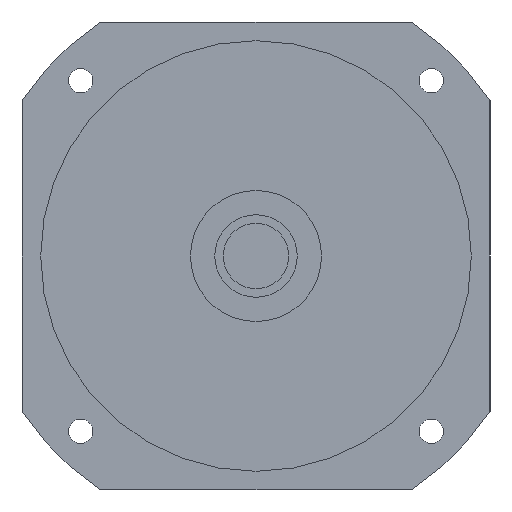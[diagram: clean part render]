
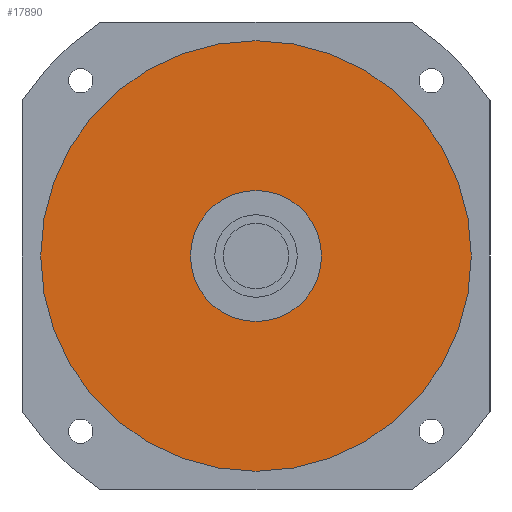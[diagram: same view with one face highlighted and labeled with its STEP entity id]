
A CAD part, left-side view. The second image highlights one B-rep face of the part: STEP entity #17890.
In plain terms, the highlighted planar face has unit normal (-1, 0, 0) as drawn and (0, 0, -1) by its records, which use the part's own axes.
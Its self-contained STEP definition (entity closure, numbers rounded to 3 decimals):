
#17310=CARTESIAN_POINT('',(115.,0.,-80.2));
#17320=VERTEX_POINT('',#17310);
#17410=CARTESIAN_POINT('',(-115.,0.,-80.2));
#17420=VERTEX_POINT('',#17410);
#17450=CARTESIAN_POINT('',(0.,0.,
-80.2));
#17460=DIRECTION('',(0.,0.,1.));
#17470=DIRECTION('',(0.,1.,0.));
#17480=AXIS2_PLACEMENT_3D('',#17450,#17460,#17470);
#17490=CIRCLE('',#17480,115.);
#17500=CARTESIAN_POINT('',(0.,115.,-80.2));
#17510=VERTEX_POINT('',#17500);
#17520=EDGE_CURVE('',#17510,#17420,#17490,.T.);
#17540=EDGE_CURVE('',#17320,#17510,#17490,.T.);
#17590=CARTESIAN_POINT('',(0.,0.,
-80.2));
#17600=DIRECTION('',(0.,0.,1.));
#17610=DIRECTION('',(-1.,0.,0.));
#17620=AXIS2_PLACEMENT_3D('',#17590,#17600,#17610);
#17630=PLANE('',#17620);
#17640=CARTESIAN_POINT('',(0.,0.,
-80.2));
#17650=DIRECTION('',(0.,0.,1.));
#17660=DIRECTION('',(0.,1.,0.));
#17670=AXIS2_PLACEMENT_3D('',#17640,#17650,#17660);
#17680=CIRCLE('',#17670,35.);
#17690=CARTESIAN_POINT('',(-35.,0.,-80.2));
#17700=VERTEX_POINT('',#17690);
#17710=CARTESIAN_POINT('',(35.,0.,-80.2));
#17720=VERTEX_POINT('',#17710);
#17730=EDGE_CURVE('',#17700,#17720,#17680,.T.);
#17740=ORIENTED_EDGE('',*,*,#17730,.T.);
#17750=CARTESIAN_POINT('',(0.,35.,-80.2));
#17760=VERTEX_POINT('',#17750);
#17770=EDGE_CURVE('',#17760,#17700,#17680,.T.);
#17780=ORIENTED_EDGE('',*,*,#17770,.T.);
#17790=EDGE_CURVE('',#17720,#17760,#17680,.T.);
#17800=ORIENTED_EDGE('',*,*,#17790,.T.);
#17810=EDGE_LOOP('',(#17800,#17780,#17740));
#17820=FACE_BOUND('',#17810,.T.);
#17830=ORIENTED_EDGE('',*,*,#17520,.F.);
#17840=EDGE_CURVE('',#17420,#17320,#17490,.T.);
#17850=ORIENTED_EDGE('',*,*,#17840,.F.);
#17860=ORIENTED_EDGE('',*,*,#17540,.F.);
#17870=EDGE_LOOP('',(#17860,#17850,#17830));
#17880=FACE_OUTER_BOUND('',#17870,.T.);
#17890=ADVANCED_FACE('',(#17820,#17880),#17630,.F.);
